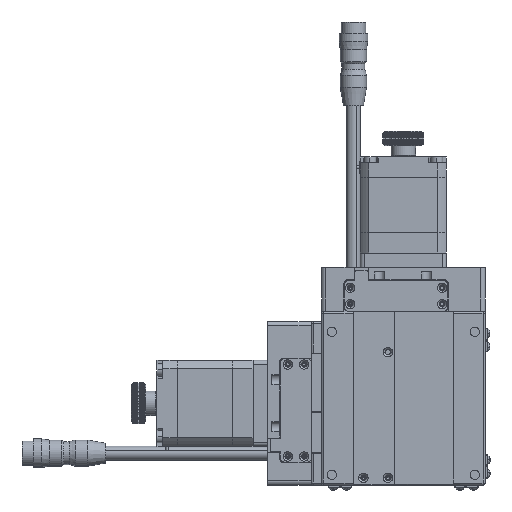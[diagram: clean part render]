
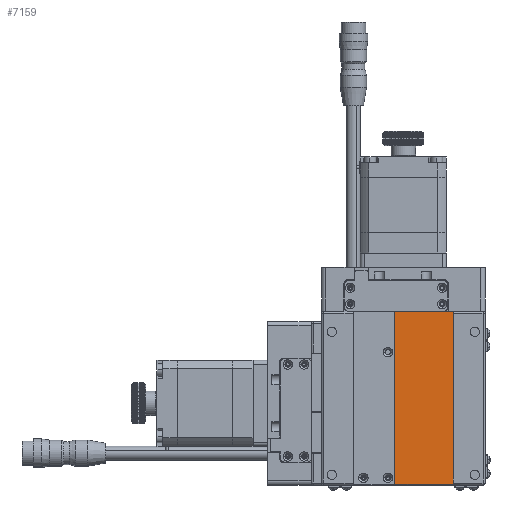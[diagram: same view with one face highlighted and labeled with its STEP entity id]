
A CAD part, front view. The second image highlights one B-rep face of the part: STEP entity #7159.
In plain terms, the highlighted planar face has unit normal (0, -1, 0).
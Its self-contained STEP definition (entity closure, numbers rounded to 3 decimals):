
#1259 = VECTOR ( 'NONE', #17462, 1000. ) ;
#1639 = DIRECTION ( 'NONE',  ( 0., 0., -1. ) ) ;
#3604 = CARTESIAN_POINT ( 'NONE',  ( -4.1, 0.3, 0.286 ) ) ;
#3977 = VERTEX_POINT ( 'NONE', #50957 ) ;
#5940 = CARTESIAN_POINT ( 'NONE',  ( -4.1, 0.3, 0. ) ) ;
#6769 = DIRECTION ( 'NONE',  ( 1., 0., 0. ) ) ;
#7159 = ADVANCED_FACE ( 'NONE', ( #27556 ), #9645, .F. ) ;
#8838 = ORIENTED_EDGE ( 'NONE', *, *, #24035, .F. ) ;
#9227 = LINE ( 'NONE', #16917, #1259 ) ;
#9370 = VERTEX_POINT ( 'NONE', #26240 ) ;
#9566 = AXIS2_PLACEMENT_3D ( 'NONE', #48393, #22993, #48684 ) ;
#9645 = PLANE ( 'NONE',  #9566 ) ;
#10621 = EDGE_CURVE ( 'NONE', #27417, #9370, #11858, .T. ) ;
#11858 = LINE ( 'NONE', #54373, #14870 ) ;
#12289 = EDGE_CURVE ( 'NONE', #3977, #23577, #9227, .T. ) ;
#14870 = VECTOR ( 'NONE', #6769, 1000. ) ;
#16917 = CARTESIAN_POINT ( 'NONE',  ( 24.5, 0.3, 84.714 ) ) ;
#17462 = DIRECTION ( 'NONE',  ( -1., 0., 0. ) ) ;
#22211 = VECTOR ( 'NONE', #1639, 1000. ) ;
#22993 = DIRECTION ( 'NONE',  ( 0., 1., 0. ) ) ;
#23577 = VERTEX_POINT ( 'NONE', #39739 ) ;
#24035 = EDGE_CURVE ( 'NONE', #27417, #23577, #40381, .T. ) ;
#26240 = CARTESIAN_POINT ( 'NONE',  ( 24.5, 0.3, 0.286 ) ) ;
#27417 = VERTEX_POINT ( 'NONE', #3604 ) ;
#27556 = FACE_OUTER_BOUND ( 'NONE', #34948, .T. ) ;
#31831 = DIRECTION ( 'NONE',  ( 0., 0., 1. ) ) ;
#34948 = EDGE_LOOP ( 'NONE', ( #8838, #56199, #40016, #39434 ) ) ;
#35527 = CARTESIAN_POINT ( 'NONE',  ( 24.5, 0.3, 85. ) ) ;
#39434 = ORIENTED_EDGE ( 'NONE', *, *, #12289, .T. ) ;
#39739 = CARTESIAN_POINT ( 'NONE',  ( -4.1, 0.3, 84.714 ) ) ;
#40016 = ORIENTED_EDGE ( 'NONE', *, *, #56217, .F. ) ;
#40076 = VECTOR ( 'NONE', #31831, 1000. ) ;
#40381 = LINE ( 'NONE', #5940, #40076 ) ;
#48393 = CARTESIAN_POINT ( 'NONE',  ( 24.5, 0.3, 85. ) ) ;
#48684 = DIRECTION ( 'NONE',  ( 1., 0., 0. ) ) ;
#50957 = CARTESIAN_POINT ( 'NONE',  ( 24.5, 0.3, 84.714 ) ) ;
#53255 = LINE ( 'NONE', #35527, #22211 ) ;
#54373 = CARTESIAN_POINT ( 'NONE',  ( -4.1, 0.3, 0.286 ) ) ;
#56199 = ORIENTED_EDGE ( 'NONE', *, *, #10621, .T. ) ;
#56217 = EDGE_CURVE ( 'NONE', #3977, #9370, #53255, .T. ) ;
